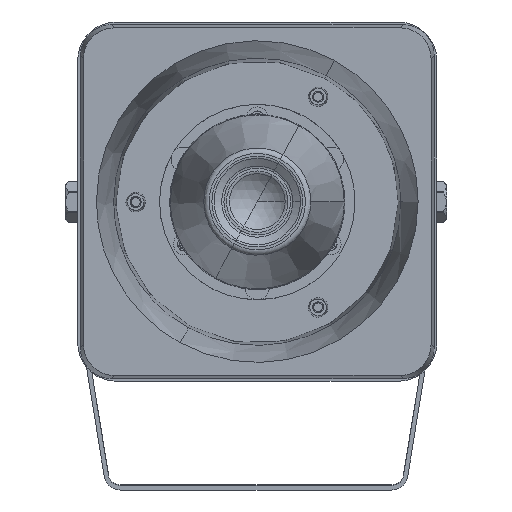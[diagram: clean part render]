
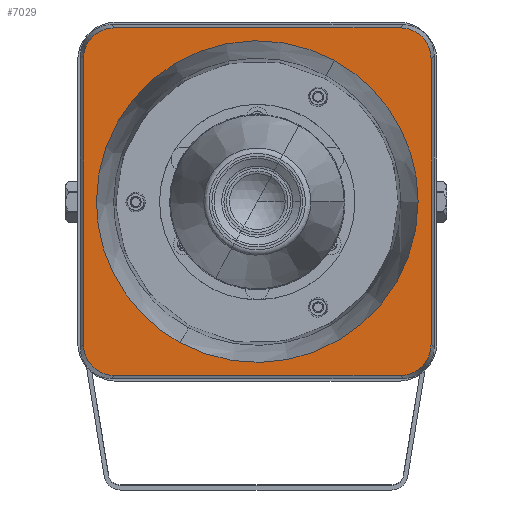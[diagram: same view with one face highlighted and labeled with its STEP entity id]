
A CAD part, top view. The second image highlights one B-rep face of the part: STEP entity #7029.
In plain terms, the highlighted planar face has unit normal (0, 0, 1).
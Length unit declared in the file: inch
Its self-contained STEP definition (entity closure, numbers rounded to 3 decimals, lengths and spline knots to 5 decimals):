
#900=DIRECTION('',(0.,-1.,0.));
#901=VECTOR('',#900,4.06974);
#902=CARTESIAN_POINT('',(-4.71983,1.94732,3.25252));
#903=LINE('',#902,#901);
#904=CARTESIAN_POINT('',(-4.71983,1.94732,3.25252));
#905=CARTESIAN_POINT('',(-4.71983,2.02075,3.25252));
#906=CARTESIAN_POINT('',(-4.75129,2.13614,3.25252));
#907=CARTESIAN_POINT('',(-4.84181,2.26589,3.25252));
#908=CARTESIAN_POINT('',(-4.97157,2.35641,3.25252));
#909=CARTESIAN_POINT('',(-5.08696,2.38788,3.25252));
#910=CARTESIAN_POINT('',(-5.16038,2.38788,3.25252));
#912=CARTESIAN_POINT('',(-5.16038,-2.56296,3.25252));
#913=CARTESIAN_POINT('',(-5.08696,-2.56296,3.25252));
#914=CARTESIAN_POINT('',(-4.97157,-2.5315,3.25252));
#915=CARTESIAN_POINT('',(-4.84181,-2.44098,3.25252));
#916=CARTESIAN_POINT('',(-4.75129,-2.31123,3.25252));
#917=CARTESIAN_POINT('',(-4.71983,-2.19584,3.25252));
#918=CARTESIAN_POINT('',(-4.71983,-2.12241,3.25252));
#920=CARTESIAN_POINT('',(-9.67067,-2.12241,3.25252));
#921=CARTESIAN_POINT('',(-9.67067,-2.19584,3.25252));
#922=CARTESIAN_POINT('',(-9.63921,-2.31123,3.25252));
#923=CARTESIAN_POINT('',(-9.54869,-2.44098,3.25252));
#924=CARTESIAN_POINT('',(-9.41893,-2.5315,3.25252));
#925=CARTESIAN_POINT('',(-9.30354,-2.56296,3.25252));
#926=CARTESIAN_POINT('',(-9.23012,-2.56296,3.25252));
#928=CARTESIAN_POINT('',(-9.23012,2.38788,3.25252));
#929=CARTESIAN_POINT('',(-9.30354,2.38788,3.25252));
#930=CARTESIAN_POINT('',(-9.41893,2.35641,3.25252));
#931=CARTESIAN_POINT('',(-9.54869,2.26589,3.25252));
#932=CARTESIAN_POINT('',(-9.63921,2.13614,3.25252));
#933=CARTESIAN_POINT('',(-9.67067,2.02075,3.25252));
#934=CARTESIAN_POINT('',(-9.67067,1.94732,3.25252));
#936=CARTESIAN_POINT('',(-7.19525,-0.08754,
3.25252));
#937=DIRECTION('',(0.,0.,-1.));
#938=DIRECTION('',(1.,0.,0.));
#939=AXIS2_PLACEMENT_3D('',#936,#937,#938);
#941=CARTESIAN_POINT('',(-7.19525,-0.08754,
3.25252));
#942=DIRECTION('',(0.,0.,-1.));
#943=DIRECTION('',(0.479,0.878,0.));
#944=AXIS2_PLACEMENT_3D('',#941,#942,#943);
#946=CARTESIAN_POINT('',(-7.19525,-0.08754,
3.25252));
#947=DIRECTION('',(0.,0.,-1.));
#948=DIRECTION('',(-1.,0.,0.));
#949=AXIS2_PLACEMENT_3D('',#946,#947,#948);
#951=CARTESIAN_POINT('',(-7.19525,-0.08754,
3.25252));
#952=DIRECTION('',(0.,0.,-1.));
#953=DIRECTION('',(-0.479,-0.878,0.));
#954=AXIS2_PLACEMENT_3D('',#951,#952,#953);
#964=DIRECTION('',(1.,0.,0.));
#965=VECTOR('',#964,4.06974);
#966=CARTESIAN_POINT('',(-9.23012,2.38788,3.25252));
#967=LINE('',#966,#965);
#984=DIRECTION('',(0.,1.,0.));
#985=VECTOR('',#984,4.06974);
#986=CARTESIAN_POINT('',(-9.67067,-2.12241,3.25252));
#987=LINE('',#986,#985);
#988=DIRECTION('',(-1.,0.,0.));
#989=VECTOR('',#988,4.06974);
#990=CARTESIAN_POINT('',(-5.16038,-2.56296,3.25252));
#991=LINE('',#990,#989);
#4699=CARTESIAN_POINT('',(-9.23012,-2.56296,
3.25252));
#4701=VERTEX_POINT('',#4699);
#4736=CARTESIAN_POINT('',(-8.29378,-2.09838,
3.25252));
#4738=VERTEX_POINT('',#4736);
#4832=CARTESIAN_POINT('',(-4.71983,1.94732,3.25252));
#4834=VERTEX_POINT('',#4832);
#4973=VERTEX_POINT('',#928);
#4974=VERTEX_POINT('',#934);
#5045=CARTESIAN_POINT('',(-5.16038,-2.56296,
3.25252));
#5046=VERTEX_POINT('',#5045);
#5263=CARTESIAN_POINT('',(-6.09672,1.9233,3.25252));
#5265=VERTEX_POINT('',#5263);
#5457=CARTESIAN_POINT('',(-5.16038,2.38788,3.25252));
#5459=VERTEX_POINT('',#5457);
#5579=CARTESIAN_POINT('',(-4.90391,-0.08754,
3.25252));
#5580=VERTEX_POINT('',#5579);
#5587=CARTESIAN_POINT('',(-4.71983,-2.12241,
3.25252));
#5588=VERTEX_POINT('',#5587);
#5688=CARTESIAN_POINT('',(-9.67067,-2.12241,
3.25252));
#5689=VERTEX_POINT('',#5688);
#5790=CARTESIAN_POINT('',(-9.48659,-0.08754,
3.25252));
#5791=VERTEX_POINT('',#5790);
#6999=CARTESIAN_POINT('',(-7.19525,-0.08754,
3.25252));
#7000=DIRECTION('',(0.,0.,1.));
#7001=DIRECTION('',(1.,0.,0.));
#7002=AXIS2_PLACEMENT_3D('',#6999,#7000,#7001);
#7003=PLANE('',#7002);
#7005=ORIENTED_EDGE('',*,*,#7004,.T.);
#7006=ORIENTED_EDGE('',*,*,#6964,.F.);
#7007=ORIENTED_EDGE('',*,*,#6980,.T.);
#7008=ORIENTED_EDGE('',*,*,#6990,.F.);
#7010=ORIENTED_EDGE('',*,*,#7009,.T.);
#7012=ORIENTED_EDGE('',*,*,#7011,.F.);
#7014=ORIENTED_EDGE('',*,*,#7013,.T.);
#7016=ORIENTED_EDGE('',*,*,#7015,.F.);
#7017=EDGE_LOOP('',(#7005,#7006,#7007,#7008,#7010,#7012,#7014,#7016));
#7018=FACE_OUTER_BOUND('',#7017,.F.);
#7020=ORIENTED_EDGE('',*,*,#7019,.F.);
#7022=ORIENTED_EDGE('',*,*,#7021,.F.);
#7024=ORIENTED_EDGE('',*,*,#7023,.F.);
#7026=ORIENTED_EDGE('',*,*,#7025,.F.);
#7027=EDGE_LOOP('',(#7020,#7022,#7024,#7026));
#7028=FACE_BOUND('',#7027,.F.);
#911=B_SPLINE_CURVE_WITH_KNOTS('',3,(#904,#905,#906,#907,#908,#909,#910),
.UNSPECIFIED.,.F.,.F.,(4,1,1,1,4),(0.,0.25,0.5,0.75,1.),
.UNSPECIFIED.);
#919=B_SPLINE_CURVE_WITH_KNOTS('',3,(#912,#913,#914,#915,#916,#917,#918),
.UNSPECIFIED.,.F.,.F.,(4,1,1,1,4),(0.,0.25,0.5,0.75,1.),
.UNSPECIFIED.);
#927=B_SPLINE_CURVE_WITH_KNOTS('',3,(#920,#921,#922,#923,#924,#925,#926),
.UNSPECIFIED.,.F.,.F.,(4,1,1,1,4),(0.,0.25,0.5,0.75,1.),
.UNSPECIFIED.);
#935=B_SPLINE_CURVE_WITH_KNOTS('',3,(#928,#929,#930,#931,#932,#933,#934),
.UNSPECIFIED.,.F.,.F.,(4,1,1,1,4),(0.,0.25,0.5,0.75,1.),
.UNSPECIFIED.);
#940=CIRCLE('',#939,2.29134);
#945=CIRCLE('',#944,2.29134);
#950=CIRCLE('',#949,2.29134);
#955=CIRCLE('',#954,2.29134);
#6964=EDGE_CURVE('',#4834,#5459,#911,.T.);
#6980=EDGE_CURVE('',#4834,#5588,#903,.T.);
#6990=EDGE_CURVE('',#5046,#5588,#919,.T.);
#7004=EDGE_CURVE('',#4973,#5459,#967,.T.);
#7009=EDGE_CURVE('',#5046,#4701,#991,.T.);
#7011=EDGE_CURVE('',#5689,#4701,#927,.T.);
#7013=EDGE_CURVE('',#5689,#4974,#987,.T.);
#7015=EDGE_CURVE('',#4973,#4974,#935,.T.);
#7019=EDGE_CURVE('',#5580,#4738,#940,.T.);
#7021=EDGE_CURVE('',#5265,#5580,#945,.T.);
#7023=EDGE_CURVE('',#5791,#5265,#950,.T.);
#7025=EDGE_CURVE('',#4738,#5791,#955,.T.);
#7029=ADVANCED_FACE('',(#7018,#7028),#7003,.T.);
